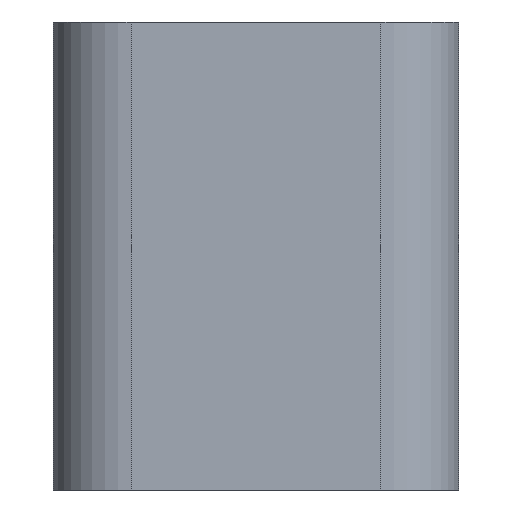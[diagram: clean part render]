
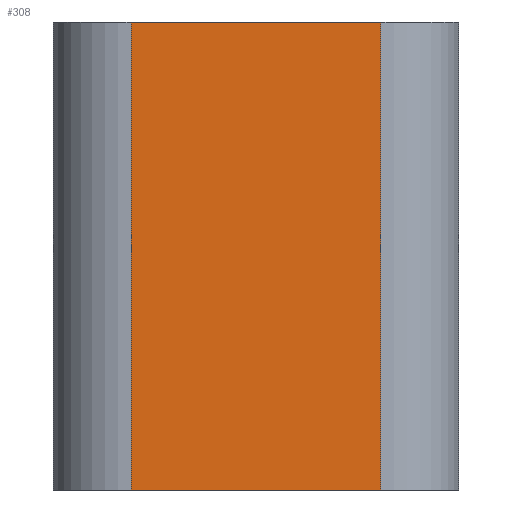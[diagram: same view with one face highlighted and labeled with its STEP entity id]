
A CAD part, left-side view. The second image highlights one B-rep face of the part: STEP entity #308.
In plain terms, the highlighted planar face has unit normal (-1, 0, 0).
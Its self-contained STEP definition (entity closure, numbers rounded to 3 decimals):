
#15 = CARTESIAN_POINT ( 'NONE',  ( -0.3, 0.21, -0.15 ) ) ;
#16 = VERTEX_POINT ( 'NONE', #15 ) ;
#26 = CARTESIAN_POINT ( 'NONE',  ( -0.3, 0.21, 0.15 ) ) ;
#27 = VERTEX_POINT ( 'NONE', #26 ) ;
#28 = CARTESIAN_POINT ( 'NONE',  ( -0.3, 0.21, -0.15 ) ) ;
#29 = DIRECTION ( 'NONE',  ( 0., 0., -1. ) ) ;
#30 = VECTOR ( 'NONE', #29, 1000. ) ;
#31 = LINE ( 'NONE', #28, #30 ) ;
#32 = EDGE_CURVE ( 'NONE', #27, #16, #31, .T. ) ;
#278 = CARTESIAN_POINT ( 'NONE',  ( -0.3, 0.05, -0.15 ) ) ;
#279 = VERTEX_POINT ( 'NONE', #278 ) ;
#280 = CARTESIAN_POINT ( 'NONE',  ( -0.3, 0.26, -0.15 ) ) ;
#281 = DIRECTION ( 'NONE',  ( 0., -1., 0. ) ) ;
#282 = VECTOR ( 'NONE', #281, 1000. ) ;
#283 = LINE ( 'NONE', #280, #282 ) ;
#284 = EDGE_CURVE ( 'NONE', #16, #279, #283, .T. ) ;
#285 = ORIENTED_EDGE ( 'NONE', *, *, #284, .T. ) ;
#286 = CARTESIAN_POINT ( 'NONE',  ( -0.3, 0.05, 0.15 ) ) ;
#287 = VERTEX_POINT ( 'NONE', #286 ) ;
#288 = CARTESIAN_POINT ( 'NONE',  ( -0.3, 0.05, -0.15 ) ) ;
#289 = DIRECTION ( 'NONE',  ( 0., 0., 1. ) ) ;
#290 = VECTOR ( 'NONE', #289, 1000. ) ;
#291 = LINE ( 'NONE', #288, #290 ) ;
#292 = EDGE_CURVE ( 'NONE', #279, #287, #291, .T. ) ;
#293 = ORIENTED_EDGE ( 'NONE', *, *, #292, .T. ) ;
#294 = CARTESIAN_POINT ( 'NONE',  ( -0.3, 0.26, 0.15 ) ) ;
#295 = DIRECTION ( 'NONE',  ( 0., -1., 0. ) ) ;
#296 = VECTOR ( 'NONE', #295, 1000. ) ;
#297 = LINE ( 'NONE', #294, #296 ) ;
#298 = EDGE_CURVE ( 'NONE', #27, #287, #297, .T. ) ;
#299 = ORIENTED_EDGE ( 'NONE', *, *, #298, .F. ) ;
#300 = ORIENTED_EDGE ( 'NONE', *, *, #32, .T. ) ;
#301 = EDGE_LOOP ( 'NONE', ( #285, #293, #299, #300 ) ) ;
#302 = FACE_OUTER_BOUND ( 'NONE', #301, .T. ) ;
#303 = CARTESIAN_POINT ( 'NONE',  ( -0.3, 0.26, -0.15 ) ) ;
#304 = DIRECTION ( 'NONE',  ( -1., 0., 0. ) ) ;
#305 = DIRECTION ( 'NONE',  ( 0., -1., 0. ) ) ;
#306 = AXIS2_PLACEMENT_3D ( 'NONE', #303, #304, #305 ) ;
#307 = PLANE ( 'NONE', #306 ) ;
#308 = ADVANCED_FACE ( 'NONE', ( #302 ), #307, .T. ) ;
